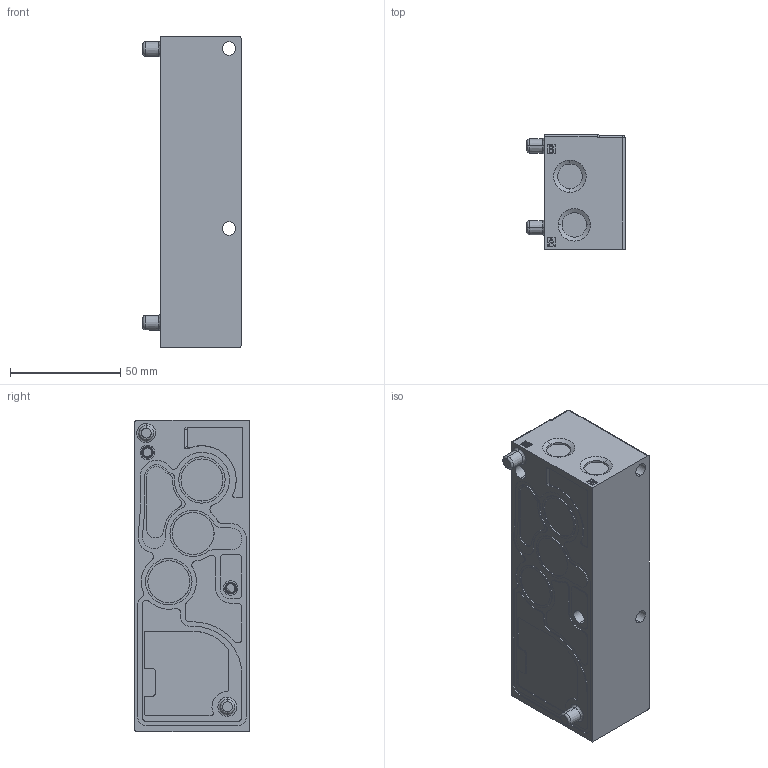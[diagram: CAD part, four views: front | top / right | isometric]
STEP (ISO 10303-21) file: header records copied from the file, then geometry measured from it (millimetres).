
FILE_DESCRIPTION (( 'STEP AP214' ), '1' );
FILE_NAME ('92A-000-B3K.STEP', '2019-08-09T13:16:33', ( '' ), ( '' ), 'SwSTEP 2.0', 'SolidWorks 2014', '' );
FILE_SCHEMA (( 'AUTOMOTIVE_DESIGN' ));
Length unit declared in the file: inch
Products named in the file (2): 92-BASE-B3J; 92A-000-B3K
Assembly tree (1 placements, depth 2):
  92A-000-B3K
    92-BASE-B3J
Bounding box: 44.5 x 52 x 141 mm (x, y, z)
Surface area: 40244.8 mm2 (no closed solid volume)
Topology: 0 solids, 25 shells, 661 faces, 1846 edges, 1248 vertices
Faces by surface type: plane 360, cylinder 183, bspline 61, cone 57
Full cylindrical faces by diameter (mm): 5 x8
Entity records: 60980 total; most frequent: CARTESIAN_POINT 36664, ORIENTED_EDGE 3352, DIRECTION 3094, EDGE_CURVE 1761, VERTEX_POINT 1192, VECTOR 1096, LINE 1096, AXIS2_PLACEMENT_3D 999
